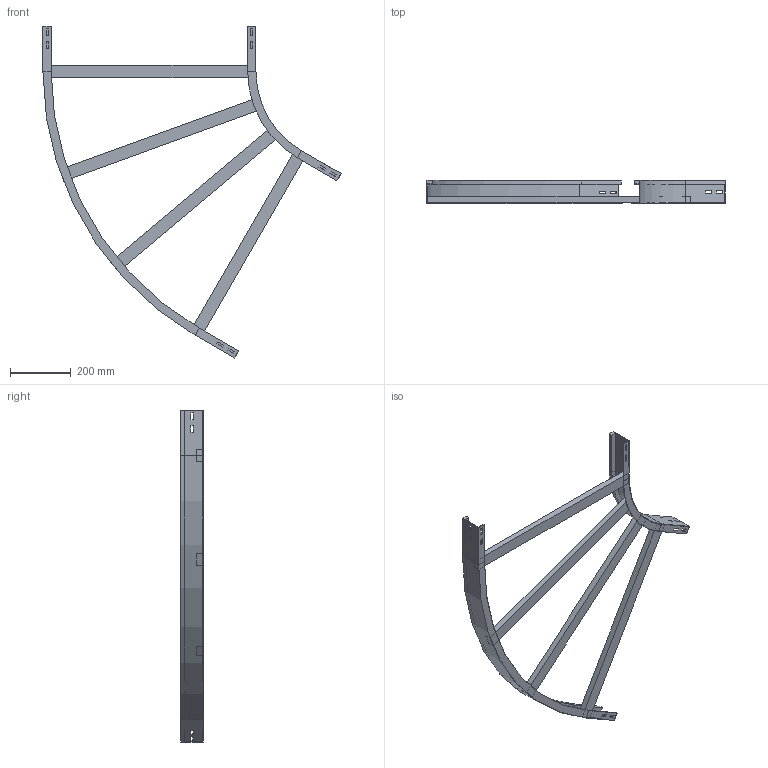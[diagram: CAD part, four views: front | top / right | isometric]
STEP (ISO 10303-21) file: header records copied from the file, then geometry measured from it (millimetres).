
FILE_DESCRIPTION (( 'STEP AP214' ), '1' );
FILE_NAME ('A2_13B3C700.step', '2025-02-21T15:21:23', ( '' ), ( '' ), 'SwSTEP 2.0', 'SolidWorks 2023', '' );
FILE_SCHEMA (( 'AUTOMOTIVE_DESIGN' ));
Length unit declared in the file: millimetre
Products named in the file (4): A2_13B3C700; TRAVERSINO_700; A2_LONGH.INTERNO 60°_H75_R300; A2_LONGH.ESTERNO 60°_H75_R300+700
Assembly tree (6 placements, depth 2):
  A2_13B3C700
    A2_LONGH.INTERNO 60°_H75_R300
    A2_LONGH.ESTERNO 60°_H75_R300+700
    TRAVERSINO_700  x4
Bounding box: 979.9 x 75 x 1091.03 mm (x, y, z)
Volume: 3018963.9 mm3; surface area: 804720.2 mm2
Topology: 6 solids, 6 shells, 140 faces, 352 edges, 224 vertices
Faces by surface type: plane 132, cylinder 8
Entity records: 3829 total; most frequent: CARTESIAN_POINT 647, ORIENTED_EDGE 632, DIRECTION 594, EDGE_CURVE 316, LINE 300, VECTOR 300, VERTEX_POINT 200, EDGE_LOOP 154
